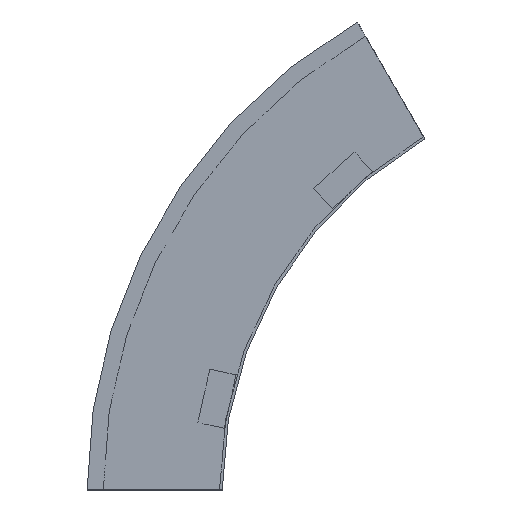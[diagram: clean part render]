
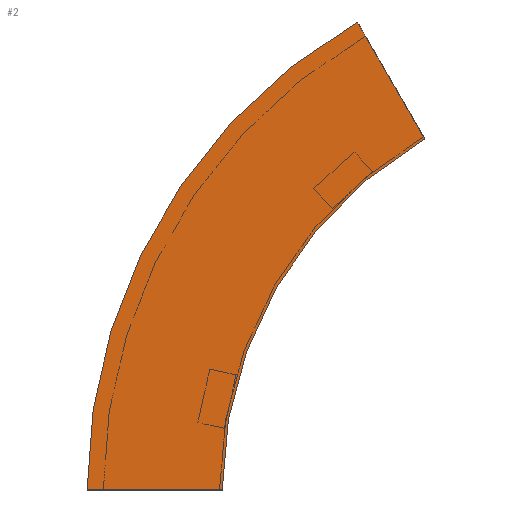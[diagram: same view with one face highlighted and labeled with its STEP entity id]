
A CAD part, left-side view. The second image highlights one B-rep face of the part: STEP entity #2.
In plain terms, the highlighted planar face has unit normal (-1, 0, 0) as drawn and (1, 0, 0) by its records, which use the part's own axes.
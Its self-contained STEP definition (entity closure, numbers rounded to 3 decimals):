
#2 = ADVANCED_FACE ( 'NONE', ( #115 ), #87, .T. ) ;
#3 = DIRECTION ( 'NONE',  ( 1., 0., 0. ) ) ;
#19 = ORIENTED_EDGE ( 'NONE', *, *, #403, .T. ) ;
#35 = VERTEX_POINT ( 'NONE', #463 ) ;
#38 = EDGE_CURVE ( 'NONE', #224, #35, #39, .T. ) ;
#39 = CIRCLE ( 'NONE', #168, 300. ) ;
#70 = DIRECTION ( 'NONE',  ( 1., 0., 0. ) ) ;
#75 = CARTESIAN_POINT ( 'NONE',  ( 0., 0., 0. ) ) ;
#81 = CARTESIAN_POINT ( 'NONE',  ( 0., 0., 0. ) ) ;
#87 = PLANE ( 'NONE',  #498 ) ;
#88 = CARTESIAN_POINT ( 'NONE',  ( 0., -150., 259.808 ) ) ;
#115 = FACE_OUTER_BOUND ( 'NONE', #387, .T. ) ;
#117 = CARTESIAN_POINT ( 'NONE',  ( 0., 100., 0. ) ) ;
#126 = LINE ( 'NONE', #81, #518 ) ;
#138 = ORIENTED_EDGE ( 'NONE', *, *, #244, .T. ) ;
#155 = CARTESIAN_POINT ( 'NONE',  ( 0., -300., 0. ) ) ;
#168 = AXIS2_PLACEMENT_3D ( 'NONE', #155, #70, #368 ) ;
#171 = DIRECTION ( 'NONE',  ( 1., 0., 0. ) ) ;
#185 = VECTOR ( 'NONE', #291, 1000. ) ;
#200 = DIRECTION ( 'NONE',  ( 0., 0., -1. ) ) ;
#206 = DIRECTION ( 'NONE',  ( 0., 1., 0. ) ) ;
#224 = VERTEX_POINT ( 'NONE', #553 ) ;
#234 = EDGE_CURVE ( 'NONE', #35, #326, #475, .T. ) ;
#244 = EDGE_CURVE ( 'NONE', #378, #326, #508, .T. ) ;
#248 = AXIS2_PLACEMENT_3D ( 'NONE', #479, #3, #428 ) ;
#291 = DIRECTION ( 'NONE',  ( 0., 0.5, 0.866 ) ) ;
#304 = ORIENTED_EDGE ( 'NONE', *, *, #38, .F. ) ;
#326 = VERTEX_POINT ( 'NONE', #391 ) ;
#368 = DIRECTION ( 'NONE',  ( 0., 1., 0. ) ) ;
#378 = VERTEX_POINT ( 'NONE', #117 ) ;
#387 = EDGE_LOOP ( 'NONE', ( #138, #406, #304, #19 ) ) ;
#391 = CARTESIAN_POINT ( 'NONE',  ( 0., -100., 346.41 ) ) ;
#403 = EDGE_CURVE ( 'NONE', #224, #378, #126, .T. ) ;
#406 = ORIENTED_EDGE ( 'NONE', *, *, #234, .F. ) ;
#428 = DIRECTION ( 'NONE',  ( 0., 1., 0. ) ) ;
#463 = CARTESIAN_POINT ( 'NONE',  ( 0., -150., 259.808 ) ) ;
#475 = LINE ( 'NONE', #88, #185 ) ;
#479 = CARTESIAN_POINT ( 'NONE',  ( 0., -300., 0. ) ) ;
#498 = AXIS2_PLACEMENT_3D ( 'NONE', #75, #171, #200 ) ;
#508 = CIRCLE ( 'NONE', #248, 400. ) ;
#518 = VECTOR ( 'NONE', #206, 1000. ) ;
#553 = CARTESIAN_POINT ( 'NONE',  ( 0., 0., 0. ) ) ;
